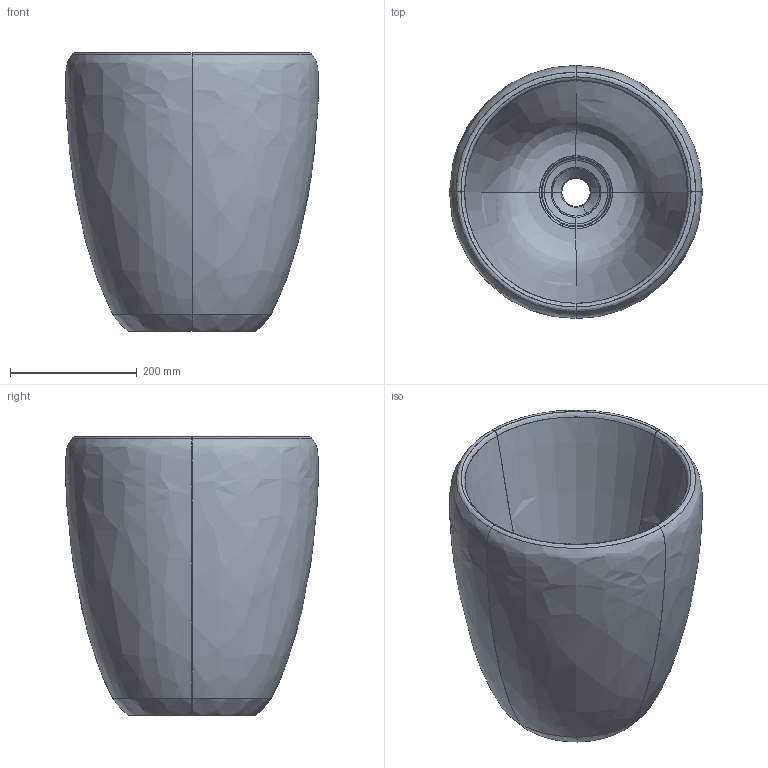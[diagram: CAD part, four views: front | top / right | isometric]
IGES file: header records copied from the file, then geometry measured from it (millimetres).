
Start section: START RECORD GO HERE.
Global section: file name: Catino 40 appog.igs; native system: IBM CATIA IGES - CATIA Version 5 Release 17 ; preprocessor: CATIA Version 5 Release 17 ; author: Luca; organization: PC-Luca; date: 20121108.151053; units: millimetre
Bounding box: 399.46 x 399.85 x 440 mm (x, y, z)
Surface area: 898964.5 mm2 (no closed solid volume)
Topology: 0 solids, 0 shells, 94 faces, 392 edges, 392 vertices
Faces by surface type: bspline 94
